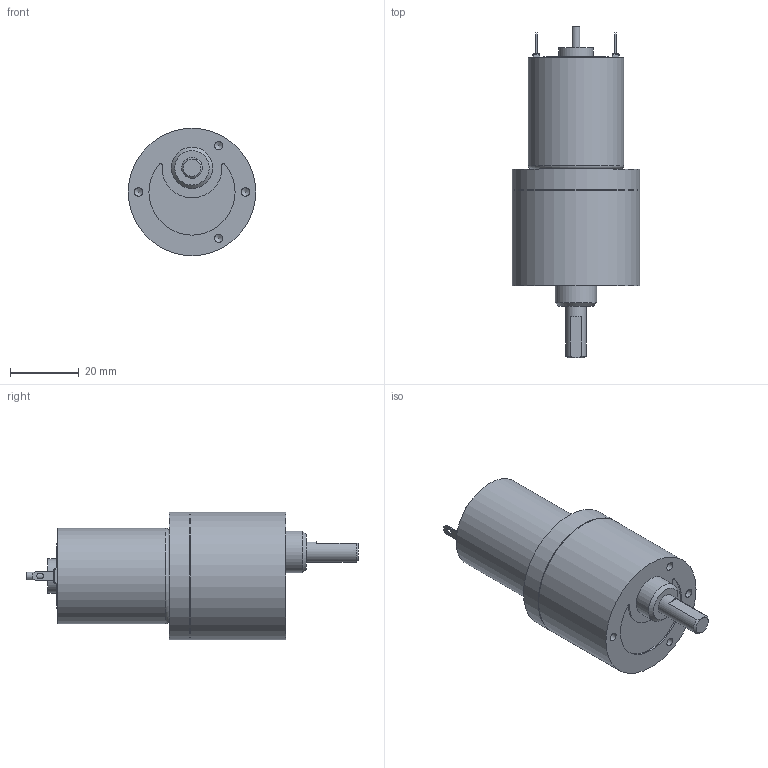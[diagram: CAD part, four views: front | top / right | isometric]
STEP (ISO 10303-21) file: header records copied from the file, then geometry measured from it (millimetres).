
FILE_DESCRIPTION((''),'2;1');
FILE_NAME('C:\Documents and Settings\SSEGAWA\デスクトップ\TP-2732D-HM-6.STP','2013-07-01T11:47:06',('SSEGAWA'),(''),'Autodesk Inventor 2010','Autodesk Inventor 2010','');
FILE_SCHEMA(('CONFIG_CONTROL_DESIGN'));
Length unit declared in the file: millimetre
Products named in the file (3): tp_2732def_hm_6; hm_6; tp_2732d,e,f
Assembly tree (2 placements, depth 2):
  tp_2732def_hm_6
    hm_6
    tp_2732d,e,f
Bounding box: 37 x 96.3 x 37 mm (x, y, z)
Volume: 56978.2 mm3; surface area: 11343.4 mm2
Topology: 2 solids, 2 shells, 147 faces, 323 edges, 206 vertices
Faces by surface type: plane 85, cylinder 35, bspline 21, torus 4, cone 2
Full cylindrical faces by diameter (mm): 2 x2, 2.305 x2, 2.5 x5, 6 x1, 9 x2, 10 x2, 12 x1, 19 x1, 26.7 x1, 27.7 x1, 36.6 x1, 37 x2
Entity records: 3949 total; most frequent: CARTESIAN_POINT 874, DIRECTION 629, ORIENTED_EDGE 538, EDGE_CURVE 269, AXIS2_PLACEMENT_3D 231, EDGE_LOOP 215, VERTEX_POINT 190, VECTOR 167
